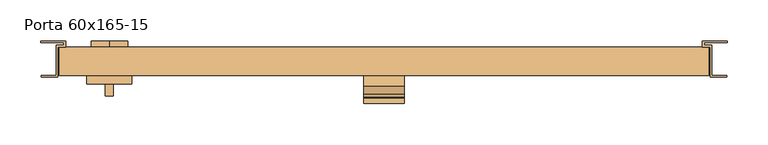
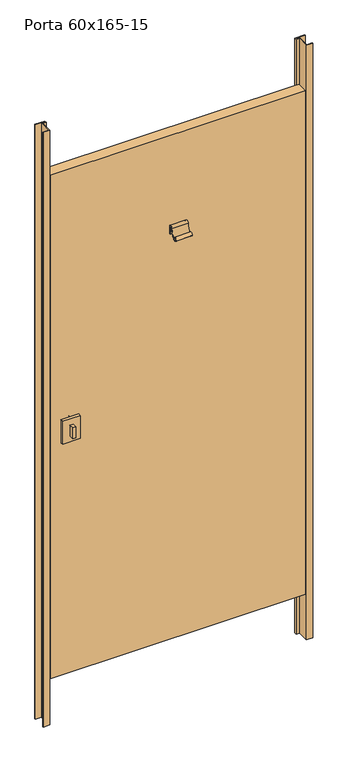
"""IFC4 building model written with IfcOpenShell, lengths in millimetres: door geometry, Porta 60x165-15 : De Abrir_1 (uma) folha 80cm."""

from ifc_helpers import new_model, si_unit, point, frame, frame_2d, origin, origin_with_axes, place, context, project, spatial, polyline, circle_curve, trimmed, segment, composite_curve, outline, extrude, source, transform, mapped, element, save


def porta_60x165_15_8e7424f7(model_context):
    return source(origin(), model_context, "Body", "SweptSolid", [
        extrude(outline(composite_curve([segment(trimmed(circle_curve(frame_2d((950.0, -335.0)), 22.5), [point((927.5, -335.0))], [point((972.5, -335.0))], False, "CARTESIAN"), True, "CONTINUOUS"), segment(trimmed(circle_curve(frame_2d((950.0, -335.0)), 22.5), [point((972.5, -335.0))], [point((927.5, -335.0))], False, "CARTESIAN"), True, "CONTINUOUS")], self_intersect=False)), frame((0.0, 0.0, 0.0), z_axis=(0.0, 1.0, 0.0), x_axis=(0.0, 0.0, 1.0)), (0.0, 0.0, 1.0), 7.4328407),
        extrude(outline(polyline([(-340.0, -60.0), (-340.0, -45.0), (-330.0, -45.0), (-330.0, -60.0), (-340.0, -60.0)])), frame((0.0, 0.0, 932.5), z_axis=(0.0, 0.0, 1.0), x_axis=(1.0, 0.0, 0.0)), (0.0, 0.0, 1.0), 35.0),
        extrude(outline(polyline([(-362.5, -45.0), (-362.5, -35.0), (-307.5, -35.0), (-307.5, -45.0), (-362.5, -45.0)])), frame((0.0, 0.0, 912.5), z_axis=(0.0, 0.0, 1.0), x_axis=(1.0, 0.0, 0.0)), (0.0, 0.0, 1.0), 75.0),
        extrude(outline(composite_curve([segment(trimmed(circle_curve(frame_2d((-41.298616, 1503.1338874)), 4.298616), [point((-37.0, 1503.1338874))], [point((-45.597232, 1503.1338874))], True, "CARTESIAN"), True, "CONTINUOUS"), segment(trimmed(circle_curve(frame_2d((-90.1631226, 1503.1338874)), 44.5658907), [point((-45.597232, 1503.1338874))], [point((-56.0236697, 1474.487485))], False, "CARTESIAN"), True, "CONTINUOUS"), segment(trimmed(circle_curve(frame_2d((-61.9440153, 1479.4552447)), 7.7284622), [point((-56.0236697, 1474.487485))], [point((-67.8643608, 1474.487485))], False, "CARTESIAN"), True, "CONTINUOUS"), segment(trimmed(circle_curve(frame_2d((-63.2967965, 1478.3201265)), 5.9625316), [point((-67.8643608, 1474.487485))], [point((-63.0887072, 1484.2790259))], False, "CARTESIAN"), True, "CONTINUOUS"), segment(trimmed(circle_curve(frame_2d((-63.4109224, 1482.6952637)), 1.6162071), [point((-63.0887072, 1484.2790259))], [point((-62.0901078, 1483.6267002))], False, "CARTESIAN"), True, "CONTINUOUS"), segment(trimmed(circle_curve(frame_2d((-62.4463365, 1482.9606765)), 0.7553055), [point((-62.0901078, 1483.6267002))], [point((-62.5824915, 1482.2177444))], False, "CARTESIAN"), True, "CONTINUOUS"), segment(trimmed(circle_curve(frame_2d((-63.2967965, 1478.3201265)), 3.9625316), [point((-62.5824915, 1482.2177444))], [point((-66.3322719, 1475.7730602))], True, "CARTESIAN"), True, "CONTINUOUS"), segment(trimmed(circle_curve(frame_2d((-61.9440153, 1479.4552447)), 5.7284622), [point((-66.3322719, 1475.7730602))], [point((-57.5557586, 1475.7730602))], True, "CARTESIAN"), True, "CONTINUOUS"), segment(trimmed(circle_curve(frame_2d((-90.1631226, 1503.1338874)), 42.5658907), [point((-57.5557586, 1475.7730602))], [point((-47.597232, 1503.1338874))], True, "CARTESIAN"), True, "CONTINUOUS"), segment(trimmed(circle_curve(frame_2d((-41.298616, 1503.1338874)), 6.298616), [point((-47.597232, 1503.1338874))], [point((-35.0, 1503.1338874))], False, "CARTESIAN"), True, "CONTINUOUS"), segment(polyline([(-35.0, 1503.1338874), (-35.0, 1478.8625069), (-37.0, 1478.8625069), (-37.0, 1503.1338874)]), True, "CONTINUOUS")], self_intersect=False)), frame((-25.0, 0.0, 0.0), z_axis=(1.0, 0.0, 0.0), x_axis=(0.0, 1.0, 0.0)), (0.0, 0.0, 1.0), 50.0),
        extrude(outline(polyline([(396.0, -35.0), (-396.0, -35.0), (-396.0, 0.0), (396.0, 0.0), (396.0, -35.0)])), frame((0.0, 0.0, 150.0), z_axis=(0.0, 0.0, 1.0), x_axis=(1.0, 0.0, 0.0)), (0.0, 0.0, 1.0), 1650.0),
        extrude(outline(polyline([(-398.0, 0.0), (-398.0, -37.0), (-418.0, -37.0), (-418.0, -35.0), (-400.0, -35.0), (-400.0, 2.0), (-390.3964539, 2.0), (-390.3964539, 5.0), (-418.3964539, 5.0), (-418.3964539, 7.0), (-388.0, 7.0), (-388.0, 0.0), (-398.0, 0.0)])), origin_with_axes(), (0.0, 0.0, 1.0), 1950.0),
        extrude(outline(polyline([(398.0, 0.0), (388.0, 0.0), (388.0, 7.0), (418.3964539, 7.0), (418.3964539, 5.0), (390.3964539, 5.0), (390.3964539, 2.0), (400.0, 2.0), (400.0, -35.0), (418.0, -35.0), (418.0, -37.0), (398.0, -37.0), (398.0, 0.0)])), origin_with_axes(), (0.0, 0.0, 1.0), 1950.0),
    ])


if __name__ == "__main__":
    model = new_model("IFC4")
    model_context = context("Model", 3, world=origin())
    ifc_project = project(units=[si_unit("LENGTHUNIT", "METRE", prefix="MILLI")], contexts=[model_context])
    site = spatial("IfcSite", under=ifc_project)
    building = spatial("IfcBuilding", under=site)
    placement = place(None, origin())
    porta_60x165_15_shape = porta_60x165_15_8e7424f7(model_context)
    element("IfcDoor", 1, ObjectType="Porta 60x165-15 : De Abrir_1 (uma) folha 80cm", at=placement, inside=building, context=model_context, shape_type="MappedRepresentation", body=[
        mapped(porta_60x165_15_shape, transform((0.0, 0.0, 0.0), x_axis=(1.0, 0.0, 0.0), y_axis=(0.0, 1.0, 0.0), z_axis=(0.0, 0.0, 1.0))),
    ])
    save(model, "model.ifc")
